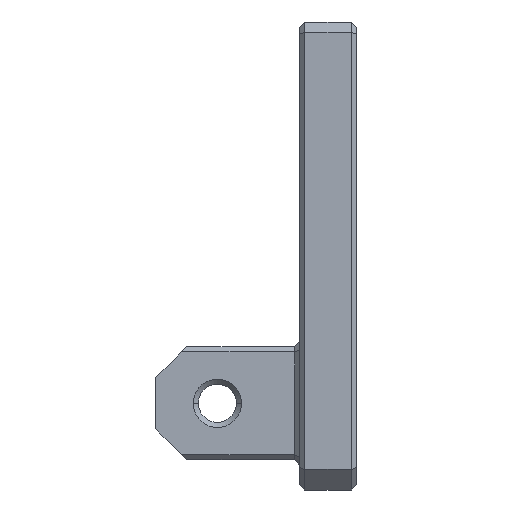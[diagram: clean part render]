
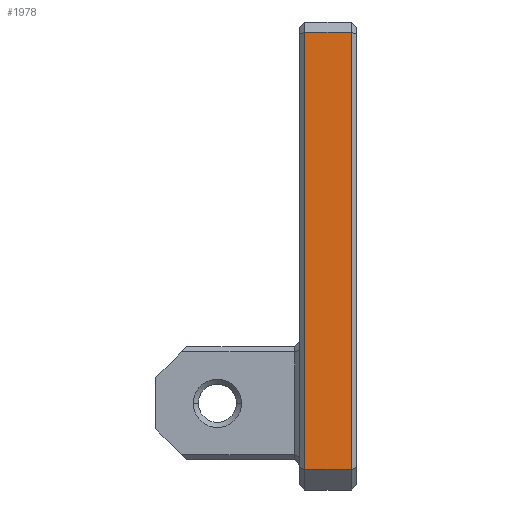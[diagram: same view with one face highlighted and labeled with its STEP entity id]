
A CAD part, front view. The second image highlights one B-rep face of the part: STEP entity #1978.
In plain terms, the highlighted planar face has unit normal (0, -1, 0).
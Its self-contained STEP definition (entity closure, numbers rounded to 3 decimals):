
#283=CARTESIAN_POINT('Line Origine',(-0.5,-56.,18.323)) ;
#287=CARTESIAN_POINT('Vertex',(-0.5,-56.,-2.427)) ;
#289=CARTESIAN_POINT('Vertex',(-0.5,-56.,40.073)) ;
#1705=CARTESIAN_POINT('Vertex',(-5.,-56.,40.073)) ;
#1710=CARTESIAN_POINT('Line Origine',(-2.75,-56.,40.073)) ;
#1943=CARTESIAN_POINT('Line Origine',(-2.75,-56.,-2.427)) ;
#1947=CARTESIAN_POINT('Vertex',(-5.,-56.,-2.427)) ;
#1962=CARTESIAN_POINT('Axis2P3D Location',(0.,-56.,40.073)) ;
#1967=CARTESIAN_POINT('Line Origine',(-5.,-56.,18.823)) ;
#284=DIRECTION('Vector Direction',(0.,0.,-1.)) ;
#1711=DIRECTION('Vector Direction',(-1.,0.,0.)) ;
#1944=DIRECTION('Vector Direction',(-1.,0.,0.)) ;
#1963=DIRECTION('Axis2P3D Direction',(0.,1.,0.)) ;
#1964=DIRECTION('Axis2P3D XDirection',(-0.,0.,-1.)) ;
#1968=DIRECTION('Vector Direction',(0.,0.,1.)) ;
#1965=AXIS2_PLACEMENT_3D('Plane Axis2P3D',#1962,#1963,#1964) ;
#1973=ORIENTED_EDGE('',*,*,#1971,.F.) ;
#1974=ORIENTED_EDGE('',*,*,#1949,.F.) ;
#1975=ORIENTED_EDGE('',*,*,#291,.T.) ;
#1976=ORIENTED_EDGE('',*,*,#1714,.T.) ;
#285=VECTOR('Line Direction',#284,1.) ;
#1712=VECTOR('Line Direction',#1711,1.) ;
#1945=VECTOR('Line Direction',#1944,1.) ;
#1969=VECTOR('Line Direction',#1968,1.) ;
#1978=ADVANCED_FACE('PartBody',(#1977),#1966,.F.) ;
#291=EDGE_CURVE('',#288,#290,#286,.F.) ;
#1714=EDGE_CURVE('',#290,#1706,#1713,.T.) ;
#1949=EDGE_CURVE('',#288,#1948,#1946,.T.) ;
#1971=EDGE_CURVE('',#1948,#1706,#1970,.T.) ;
#1972=EDGE_LOOP('',(#1973,#1974,#1975,#1976)) ;
#1977=FACE_OUTER_BOUND('',#1972,.T.) ;
#286=LINE('Line',#283,#285) ;
#1713=LINE('Line',#1710,#1712) ;
#1946=LINE('Line',#1943,#1945) ;
#1970=LINE('Line',#1967,#1969) ;
#1966=PLANE('Plane',#1965) ;
#288=VERTEX_POINT('',#287) ;
#290=VERTEX_POINT('',#289) ;
#1706=VERTEX_POINT('',#1705) ;
#1948=VERTEX_POINT('',#1947) ;
